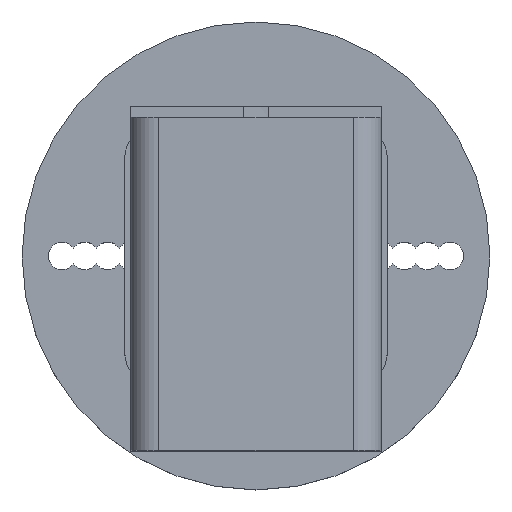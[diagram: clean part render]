
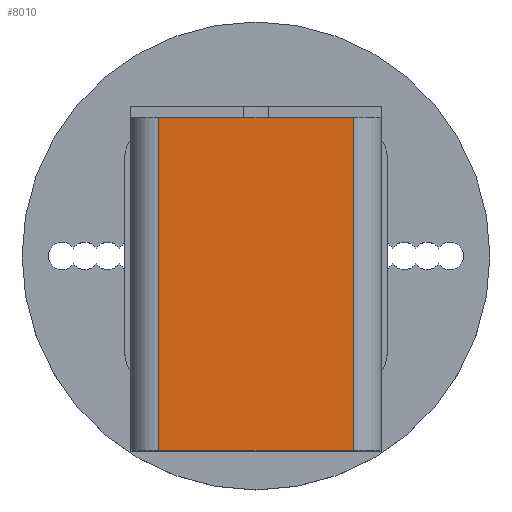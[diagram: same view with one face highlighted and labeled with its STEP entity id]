
A CAD part, top view. The second image highlights one B-rep face of the part: STEP entity #8010.
In plain terms, the highlighted planar face has unit normal (0, 0, 1).
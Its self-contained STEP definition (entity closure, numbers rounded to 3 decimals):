
#2260 = PLANE('',#2261);
#2261 = AXIS2_PLACEMENT_3D('',#2262,#2263,#2264);
#2262 = CARTESIAN_POINT('',(11.,12.,101.9));
#2263 = DIRECTION('',(0.,1.,0.));
#2264 = DIRECTION('',(0.,0.,-1.));
#2446 = EDGE_CURVE('',#2447,#2449,#2451,.T.);
#2447 = VERTEX_POINT('',#2448);
#2448 = CARTESIAN_POINT('',(8.5,12.,101.9));
#2449 = VERTEX_POINT('',#2450);
#2450 = CARTESIAN_POINT('',(-8.5,12.,101.9));
#2451 = SURFACE_CURVE('',#2452,(#2456,#2463),.PCURVE_S1.);
#2452 = LINE('',#2453,#2454);
#2453 = CARTESIAN_POINT('',(11.,12.,101.9));
#2454 = VECTOR('',#2455,1.);
#2455 = DIRECTION('',(-1.,0.,0.));
#2456 = PCURVE('',#2260,#2457);
#2457 = DEFINITIONAL_REPRESENTATION('',(#2458),#2462);
#2458 = LINE('',#2459,#2460);
#2459 = CARTESIAN_POINT('',(0.,0.));
#2460 = VECTOR('',#2461,1.);
#2461 = DIRECTION('',(0.,1.));
#2462 = ( GEOMETRIC_REPRESENTATION_CONTEXT(2) 
PARAMETRIC_REPRESENTATION_CONTEXT() REPRESENTATION_CONTEXT('2D SPACE',''
  ) );
#2463 = PCURVE('',#2464,#2469);
#2464 = PLANE('',#2465);
#2465 = AXIS2_PLACEMENT_3D('',#2466,#2467,#2468);
#2466 = CARTESIAN_POINT('',(11.,-17.2,101.9));
#2467 = DIRECTION('',(0.,0.,-1.));
#2468 = DIRECTION('',(0.,1.,0.));
#2469 = DEFINITIONAL_REPRESENTATION('',(#2470),#2474);
#2470 = LINE('',#2471,#2472);
#2471 = CARTESIAN_POINT('',(29.2,0.));
#2472 = VECTOR('',#2473,1.);
#2473 = DIRECTION('',(0.,-1.));
#2474 = ( GEOMETRIC_REPRESENTATION_CONTEXT(2) 
PARAMETRIC_REPRESENTATION_CONTEXT() REPRESENTATION_CONTEXT('2D SPACE',''
  ) );
#2493 = CYLINDRICAL_SURFACE('',#2494,2.5);
#2494 = AXIS2_PLACEMENT_3D('',#2495,#2496,#2497);
#2495 = CARTESIAN_POINT('',(8.5,-17.2,99.4));
#2496 = DIRECTION('',(0.,1.,0.));
#2497 = DIRECTION('',(0.,0.,1.));
#2654 = CYLINDRICAL_SURFACE('',#2655,2.5);
#2655 = AXIS2_PLACEMENT_3D('',#2656,#2657,#2658);
#2656 = CARTESIAN_POINT('',(-8.5,-17.2,99.4));
#2657 = DIRECTION('',(0.,1.,0.));
#2658 = DIRECTION('',(0.,0.,1.));
#2670 = VERTEX_POINT('',#2671);
#2671 = CARTESIAN_POINT('',(8.5,-17.2,101.9));
#2688 = PLANE('',#2689);
#2689 = AXIS2_PLACEMENT_3D('',#2690,#2691,#2692);
#2690 = CARTESIAN_POINT('',(-11.,-17.2,56.53));
#2691 = DIRECTION('',(-0.,1.,0.));
#2692 = DIRECTION('',(0.,0.,1.));
#2722 = EDGE_CURVE('',#2670,#2447,#2723,.T.);
#2723 = SURFACE_CURVE('',#2724,(#2728,#2735),.PCURVE_S1.);
#2724 = LINE('',#2725,#2726);
#2725 = CARTESIAN_POINT('',(8.5,-17.2,101.9));
#2726 = VECTOR('',#2727,1.);
#2727 = DIRECTION('',(0.,1.,0.));
#2728 = PCURVE('',#2493,#2729);
#2729 = DEFINITIONAL_REPRESENTATION('',(#2730),#2734);
#2730 = LINE('',#2731,#2732);
#2731 = CARTESIAN_POINT('',(0.,0.));
#2732 = VECTOR('',#2733,1.);
#2733 = DIRECTION('',(0.,1.));
#2734 = ( GEOMETRIC_REPRESENTATION_CONTEXT(2) 
PARAMETRIC_REPRESENTATION_CONTEXT() REPRESENTATION_CONTEXT('2D SPACE',''
  ) );
#2735 = PCURVE('',#2464,#2736);
#2736 = DEFINITIONAL_REPRESENTATION('',(#2737),#2741);
#2737 = LINE('',#2738,#2739);
#2738 = CARTESIAN_POINT('',(0.,-2.5));
#2739 = VECTOR('',#2740,1.);
#2740 = DIRECTION('',(1.,0.));
#2741 = ( GEOMETRIC_REPRESENTATION_CONTEXT(2) 
PARAMETRIC_REPRESENTATION_CONTEXT() REPRESENTATION_CONTEXT('2D SPACE',''
  ) );
#2913 = VERTEX_POINT('',#2914);
#2914 = CARTESIAN_POINT('',(-8.5,-17.2,101.9));
#2940 = EDGE_CURVE('',#2670,#2913,#2941,.T.);
#2941 = SURFACE_CURVE('',#2942,(#2946,#2953),.PCURVE_S1.);
#2942 = LINE('',#2943,#2944);
#2943 = CARTESIAN_POINT('',(11.,-17.2,101.9));
#2944 = VECTOR('',#2945,1.);
#2945 = DIRECTION('',(-1.,0.,0.));
#2946 = PCURVE('',#2688,#2947);
#2947 = DEFINITIONAL_REPRESENTATION('',(#2948),#2952);
#2948 = LINE('',#2949,#2950);
#2949 = CARTESIAN_POINT('',(45.37,22.));
#2950 = VECTOR('',#2951,1.);
#2951 = DIRECTION('',(0.,-1.));
#2952 = ( GEOMETRIC_REPRESENTATION_CONTEXT(2) 
PARAMETRIC_REPRESENTATION_CONTEXT() REPRESENTATION_CONTEXT('2D SPACE',''
  ) );
#2953 = PCURVE('',#2464,#2954);
#2954 = DEFINITIONAL_REPRESENTATION('',(#2955),#2959);
#2955 = LINE('',#2956,#2957);
#2956 = CARTESIAN_POINT('',(0.,0.));
#2957 = VECTOR('',#2958,1.);
#2958 = DIRECTION('',(0.,-1.));
#2959 = ( GEOMETRIC_REPRESENTATION_CONTEXT(2) 
PARAMETRIC_REPRESENTATION_CONTEXT() REPRESENTATION_CONTEXT('2D SPACE',''
  ) );
#7990 = EDGE_CURVE('',#2913,#2449,#7991,.T.);
#7991 = SURFACE_CURVE('',#7992,(#7996,#8003),.PCURVE_S1.);
#7992 = LINE('',#7993,#7994);
#7993 = CARTESIAN_POINT('',(-8.5,-17.2,101.9));
#7994 = VECTOR('',#7995,1.);
#7995 = DIRECTION('',(0.,1.,0.));
#7996 = PCURVE('',#2654,#7997);
#7997 = DEFINITIONAL_REPRESENTATION('',(#7998),#8002);
#7998 = LINE('',#7999,#8000);
#7999 = CARTESIAN_POINT('',(-0.,0.));
#8000 = VECTOR('',#8001,1.);
#8001 = DIRECTION('',(-0.,1.));
#8002 = ( GEOMETRIC_REPRESENTATION_CONTEXT(2) 
PARAMETRIC_REPRESENTATION_CONTEXT() REPRESENTATION_CONTEXT('2D SPACE',''
  ) );
#8003 = PCURVE('',#2464,#8004);
#8004 = DEFINITIONAL_REPRESENTATION('',(#8005),#8009);
#8005 = LINE('',#8006,#8007);
#8006 = CARTESIAN_POINT('',(0.,-19.5));
#8007 = VECTOR('',#8008,1.);
#8008 = DIRECTION('',(1.,0.));
#8009 = ( GEOMETRIC_REPRESENTATION_CONTEXT(2) 
PARAMETRIC_REPRESENTATION_CONTEXT() REPRESENTATION_CONTEXT('2D SPACE',''
  ) );
#8010 = ADVANCED_FACE('',(#8011),#2464,.F.);
#8011 = FACE_BOUND('',#8012,.F.);
#8012 = EDGE_LOOP('',(#8013,#8014,#8015,#8016));
#8013 = ORIENTED_EDGE('',*,*,#2446,.F.);
#8014 = ORIENTED_EDGE('',*,*,#2722,.F.);
#8015 = ORIENTED_EDGE('',*,*,#2940,.T.);
#8016 = ORIENTED_EDGE('',*,*,#7990,.T.);
